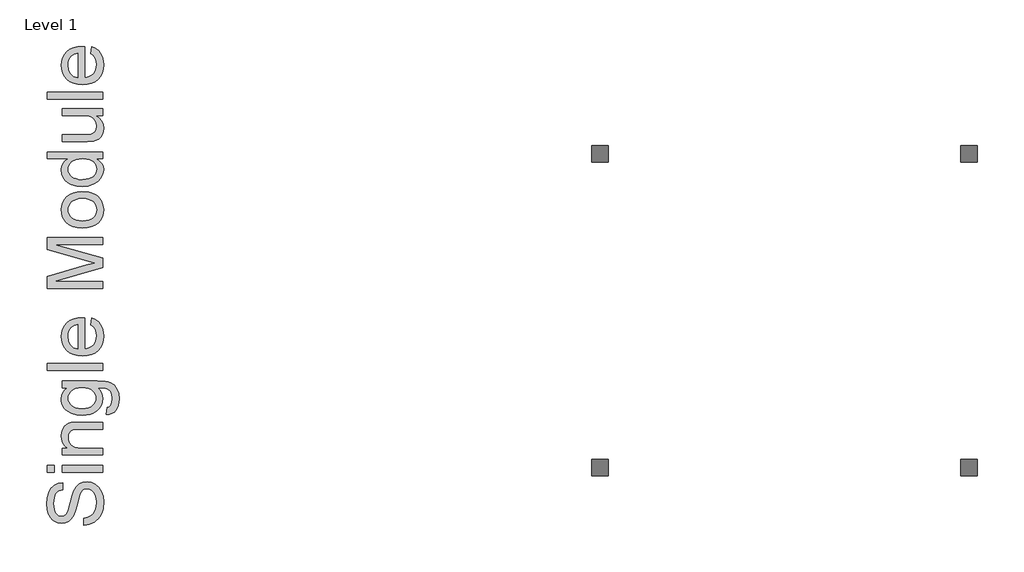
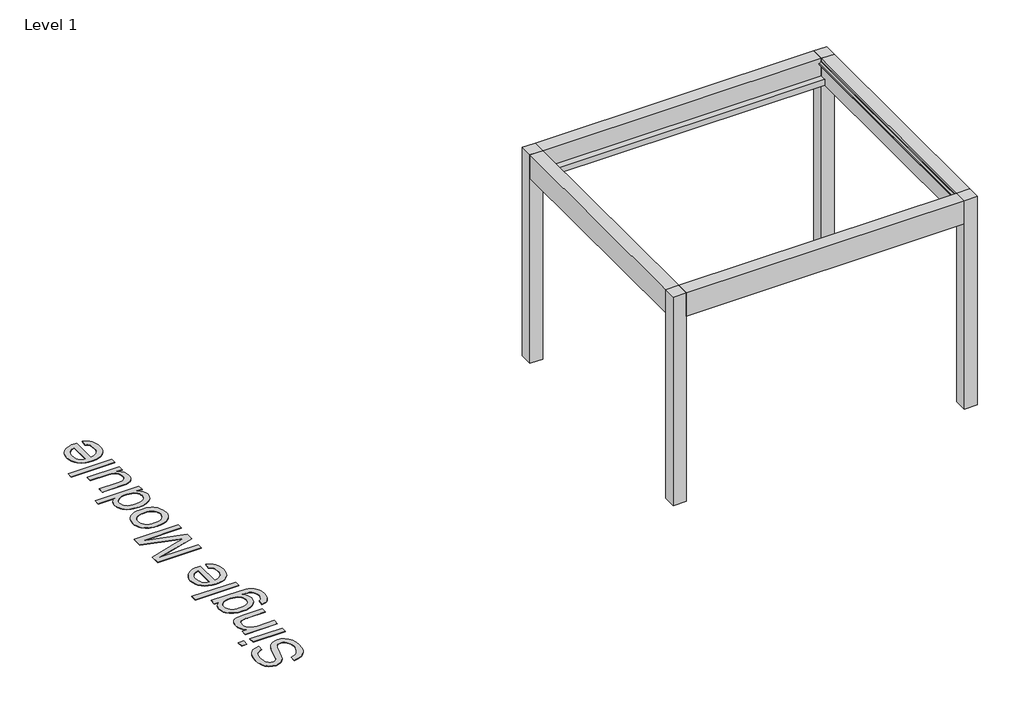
# One storey, part 52 of 80: 2 proxies.
"""IFC4 building model written with IfcOpenShell, lengths in millimetres."""

from ifc_helpers import new_model, si_unit, origin, origin_with_axes, place, context, project, spatial, polyline, outline, extrude, transform, mapped, element, save
from components import generic_models_9605c008

model = new_model("IFC4")

# Units and contexts
model_context = context("Model", 3, world=origin())
ifc_project = project(units=[si_unit("LENGTHUNIT", "METRE", prefix="MILLI")], contexts=[model_context])

# Site, building, storey
site = spatial("IfcSite", under=ifc_project)
building = spatial("IfcBuilding", under=site)
storey = spatial("IfcBuildingStorey", under=building, Name="Level 1", Elevation=0.0)

# Proxies
placement = place(None, origin())
generic_models_shape = generic_models_9605c008(model_context)
element("IfcBuildingElementProxy", 1, Name="Renson_Amani_Patio_Cover : Renson_Amani_Patio_Cover", ObjectType="Renson_Amani_Patio_Cover : Renson_Amani_Patio_Cover", at=placement, inside=storey, context=model_context, shape_type="MappedRepresentation", body=[
    mapped(generic_models_shape, transform((48903.165057, 67528.5861401, 0.0), x_axis=(1.0, 0.0, 0.0), y_axis=(0.0, 1.0, 0.0), z_axis=(0.0, 0.0, 1.0))),
])
element("IfcBuildingElementProxy", 2, Name="500mm Arial", ObjectType="500mm Arial", at=placement, inside=storey, context=model_context, shape_type="SweptSolid", body=[
    extrude(outline(polyline([(42540.3333758, 65583.2954326), (42540.3333758, 65646.0806264), (42575.1748664, 65653.2849821), (42603.1798833, 65666.3141361), (42625.4060871, 65686.6396164), (42642.9111388, 65715.7329508), (42654.2694954, 65751.294877), (42658.0556142, 65791.0261325), (42655.1892003, 65826.0055789), (42646.5899587, 65856.631755), (42632.9783249, 65881.4484612), (42615.0747345, 65898.9994981), (42594.519328, 65909.4381497), (42572.952246, 65912.9177002), (42551.936987, 65910.3118694), (42533.7728135, 65902.494377), (42518.2757845, 65886.6141376), (42505.2619589, 65859.8200656), (42481.2883155, 65768.4013898), (42465.4234045, 65708.3906393), (42450.3249143, 65669.9929561), (42429.2023564, 65638.7383149), (42403.6039009, 65616.5887531), (42374.0813708, 65603.3909866), (42341.186589, 65598.991731), (42304.4137179, 65604.4333189), (42270.1240503, 65620.7580824), (42254.5963644, 65632.8943561), (42241.0613727, 65647.536826), (42219.9694716, 65684.3403539), (42207.139587, 65728.5168502), (42202.8629589, 65777.4144987), (42207.3388565, 65830.389506), (42220.7665493, 65876.7426374), (42242.8701258, 65914.8184239), (42257.0719037, 65930.1315119), (42273.3736746, 65942.9613965), (42310.3764719, 65960.7730165), (42351.9777942, 65967.8547449), (42351.9777942, 65905.069551), (42331.9435539, 65900.8695649), (42314.5151444, 65893.5425818), (42299.6925657, 65883.0886018), (42287.4758177, 65869.5076248), (42277.9262143, 65852.546732), (42271.105069, 65831.9530045), (42265.6481527, 65779.8670453), (42271.0437553, 65726.5548129), (42277.7882585, 65706.1756832), (42287.2305631, 65689.9812112), (42298.5812555, 65677.6418359), (42311.0509223, 65668.8279964), (42324.6395635, 65663.5396928), (42339.3471791, 65661.7769249), (42363.4741066, 65666.7739886), (42382.8798818, 65681.7651799), (42391.5097803, 65695.5300979), (42400.2316493, 65717.2044788), (42417.9512987, 65784.2816293), (42434.7819, 65853.504758), (42449.466523, 65895.3819918), (42472.2445498, 65931.1738443), (42500.3568656, 65956.1438347), (42533.496902, 65970.8131292), (42571.3580907, 65975.7028941), (42610.0623423, 65970.0773652), (42646.4673314, 65953.2007787), (42677.7986146, 65925.7629132), (42701.2817487, 65888.4535476), (42715.9510432, 65843.5872726), (42720.8408081, 65793.4786791), (42715.5678328, 65731.9657439), (42708.9766137, 65705.2904671), (42699.748907, 65681.3359843), (42687.8693842, 65659.9566754), (42673.322717, 65641.0069206), (42656.1089053, 65624.4867197), (42636.2279492, 65610.3960729), (42614.323642, 65599.0453805), (42591.0397774, 65590.745043), (42566.3763553, 65585.4950603), (42540.3333758, 65583.2954326)])), origin_with_axes(), (0.0, 0.0, 1.0), 5.0),
    extrude(outline(polyline([(42712.9926588, 66062.0325356), (42344.129645, 66062.0325356), (42344.129645, 66124.8177295), (42712.9926588, 66124.8177295), (42712.9926588, 66062.0325356)])), origin_with_axes(), (0.0, 0.0, 1.0), 5.0),
    extrude(outline(polyline([(42273.4963019, 66062.0325356), (42210.7111081, 66062.0325356), (42210.7111081, 66124.8177295), (42273.4963019, 66124.8177295), (42273.4963019, 66062.0325356)])), origin_with_axes(), (0.0, 0.0, 1.0), 5.0),
    extrude(outline(polyline([(42712.9926588, 66218.9955202), (42344.129645, 66218.9955202), (42344.129645, 66281.7807141), (42395.6331243, 66281.7807141), (42369.6667868, 66303.5930507), (42351.1194029, 66329.7893144), (42339.9909726, 66360.3695053), (42336.2814958, 66395.3336233), (42339.270537, 66426.2816961), (42348.2376606, 66454.6239381), (42362.0638923, 66478.2603563), (42379.6302575, 66495.0909576), (42400.8907712, 66506.5106279), (42425.7994479, 66513.914253), (42486.4999771, 66517.225191), (42712.9926588, 66517.225191), (42712.9926588, 66454.4399971), (42494.961263, 66454.4399971), (42462.495677, 66452.631244), (42439.4110818, 66447.2049846), (42422.8717204, 66437.1955286), (42410.0418358, 66421.6371859), (42401.8104762, 66401.6949161), (42399.0666896, 66378.5336788), (42400.6071955, 66359.4689608), (42405.228713, 66341.7608077), (42412.9312423, 66325.4092194), (42423.7147833, 66310.414196), (42438.8056093, 66297.8870477), (42459.4299937, 66288.9390846), (42485.5879364, 66283.5703067), (42517.2794374, 66281.7807141), (42712.9926588, 66281.7807141), (42712.9926588, 66218.9955202)])), origin_with_axes(), (0.0, 0.0, 1.0), 5.0),
    extrude(outline(polyline([(42744.3852558, 66587.8585341), (42752.233405, 66650.6437279), (42771.8537781, 66657.5721721), (42785.3427846, 66670.999865), (42795.8274214, 66697.3953981), (42799.3223004, 66731.9456488), (42795.3675689, 66768.795162), (42783.5033746, 66796.2023707), (42764.4961382, 66815.2096071), (42739.1122805, 66826.8592036), (42712.1036107, 66830.2621121), (42665.9037635, 66831.1511602), (42686.5051552, 66810.2585286), (42701.220435, 66786.9440071), (42710.0496029, 66761.2075959), (42712.9926588, 66733.0492948), (42709.5667578, 66698.6255035), (42699.2890545, 66668.3173921), (42682.1595491, 66642.1249605), (42658.1782416, 66620.0482086), (42629.4068038, 66602.5316607), (42597.906908, 66590.0198408), (42563.678554, 66582.5127488), (42526.7217419, 66580.0103848), (42476.0306687, 66584.5016109), (42429.4169542, 66597.9752889), (42389.915625, 66619.9562381), (42373.9702398, 66633.9587466), (42360.5617075, 66649.9692776), (42349.9391148, 66667.7310802), (42342.3515487, 66686.9874033), (42337.799009, 66707.7382471), (42336.2814958, 66729.9836115), (42339.7150611, 66759.3451933), (42350.0157569, 66785.9936453), (42367.1835834, 66809.9289676), (42391.2185404, 66831.1511602), (42344.129645, 66831.1511602), (42344.129645, 66893.936354), (42662.5928255, 66893.936354), (42736.1232393, 66889.6443974), (42763.4729664, 66884.2794517), (42784.5457069, 66876.7685276), (42816.6587394, 66854.588309), (42841.2608478, 66822.383306), (42850.3812556, 66802.6977871), (42856.8958326, 66780.8586258), (42862.1074942, 66730.7193755), (42860.2719163, 66699.9590758), (42854.7651827, 66672.3027804), (42845.5872934, 66647.7504893), (42832.7382483, 66626.3022026), (42816.202719, 66608.9772598), (42795.9653772, 66596.7950009), (42772.0262227, 66589.7554256), (42744.3852558, 66587.8585341)]), holes=[polyline([(42522.4297853, 66642.7955787), (42553.4736608, 66644.4702082), (42580.018646, 66649.4940967), (42602.064741, 66657.8672442), (42619.6119457, 66669.5896507), (42632.9974854, 66683.8412459), (42642.5585852, 66699.8019595), (42648.295245, 66717.4717916), (42650.207465, 66736.8507421), (42648.3067413, 66756.0380874), (42642.6045704, 66773.6236132), (42633.1009522, 66789.6073195), (42619.7958867, 66803.9892062), (42602.4211267, 66815.8725611), (42580.7084247, 66824.3606717), (42554.657781, 66829.4535381), (42524.2691953, 66831.1511602), (42495.1490361, 66829.4037207), (42469.8379884, 66824.1614023), (42448.3360522, 66815.4242049), (42430.6432275, 66803.1921286), (42416.8284922, 66788.4998414), (42406.9608241, 66772.3820115), (42401.0402232, 66754.8386388), (42399.0666896, 66735.8697235), (42401.0095664, 66717.2188727), (42406.8381968, 66700.0165573), (42416.5525807, 66684.2627773), (42430.1527182, 66669.9575327), (42447.5772956, 66658.0741778), (42468.7649993, 66649.5860672), (42493.7158292, 66644.4932008), (42522.4297853, 66642.7955787)])]), origin_with_axes(), (0.0, 0.0, 1.0), 5.0),
    extrude(outline(polyline([(42712.9926588, 66988.1141448), (42210.7111081, 66988.1141448), (42210.7111081, 67050.8993387), (42712.9926588, 67050.8993387), (42712.9926588, 66988.1141448)])), origin_with_axes(), (0.0, 0.0, 1.0), 5.0),
    extrude(outline(polyline([(42603.1185696, 67403.33029), (42610.9667188, 67464.8892106), (42635.6224767, 67455.4507381), (42657.3505071, 67442.7089919), (42676.1508099, 67426.663972), (42692.0233851, 67407.3156783), (42704.6310077, 67384.8633803), (42713.6364523, 67359.5063474), (42719.0397191, 67331.2445795), (42720.8408081, 67300.0780767), (42717.7329716, 67261.1209063), (42708.4094623, 67226.4097072), (42692.8702801, 67195.9444795), (42671.115425, 67169.7252231), (42643.7503696, 67148.6409863), (42611.3805861, 67133.5808171), (42574.0060746, 67124.5447156), (42531.6268352, 67121.5326817), (42487.8105567, 67124.5753724), (42449.1906115, 67133.7034444), (42415.7669994, 67148.9168977), (42387.5397204, 67170.2157324), (42365.1142471, 67196.3660109), (42349.0960519, 67226.1337957), (42339.4851348, 67259.5190868), (42336.2814958, 67296.5218841), (42339.4774706, 67332.3328971), (42349.0653951, 67364.718009), (42365.0452693, 67393.6772198), (42387.4170931, 67419.2105295), (42415.5830584, 67440.0533438), (42448.9453568, 67454.9410683), (42487.5039884, 67463.873703), (42531.2589532, 67466.8512479), (42548.181525, 67466.4833659), (42548.181525, 67184.3178756), (42573.2358217, 67187.9545424), (42595.1784499, 67195.1857229), (42614.0094095, 67206.011417), (42629.7287006, 67220.4316248), (42642.1217253, 67237.6492686), (42650.9738858, 67256.8672707), (42656.2851821, 67278.0856312), (42658.0556142, 67301.30435), (42654.7753331, 67334.7202979), (42644.9344897, 67362.8632706), (42627.9199474, 67385.7332679), (42603.1185696, 67403.33029)]), holes=[polyline([(42485.3963312, 67184.3178756), (42485.3963312, 67404.066054), (42452.2256379, 67395.5741113), (42428.4972492, 67378.927451), (42415.6213794, 67361.8056098), (42406.4243295, 67342.3231925), (42400.9060996, 67320.480199), (42399.0666896, 67296.2766294), (42404.9374731, 67253.9548716), (42412.2759525, 67235.5416113), (42422.5498236, 67218.9600968), (42435.2839056, 67205.0457267), (42450.0030175, 67194.6338999), (42466.7071594, 67187.7246161), (42485.3963312, 67184.3178756)])]), origin_with_axes(), (0.0, 0.0, 1.0), 5.0),
    extrude(outline(polyline([(42712.9926588, 67733.6883217), (42210.7111081, 67733.6883217), (42210.7111081, 67841.723001), (42564.7362148, 67944.4847049), (42638.6804958, 67965.208724), (42558.6048482, 67987.6495257), (42210.7111081, 68088.6944471), (42210.7111081, 68196.7291263), (42712.9926588, 68196.7291263), (42712.9926588, 68133.9439325), (42273.4963019, 68133.9439325), (42712.9926588, 68007.7604081), (42712.9926588, 67922.6570399), (42273.4963019, 67796.4735156), (42712.9926588, 67796.4735156), (42712.9926588, 67733.6883217)])), origin_with_axes(), (0.0, 0.0, 1.0), 5.0),
    extrude(outline(polyline([(42528.5611519, 68283.0587678), (42480.790142, 68286.4540121), (42439.6256796, 68296.6397448), (42405.0677647, 68313.6159661), (42377.1163972, 68337.3826758), (42359.2511278, 68361.3103339), (42346.4902211, 68387.7211955), (42338.8336771, 68416.6152605), (42336.2814958, 68447.992529), (42339.3893322, 68482.6309181), (42348.7128415, 68513.9507051), (42364.2520237, 68541.9518898), (42386.0068788, 68566.6344725), (42413.2416427, 68586.7798438), (42445.2205516, 68601.1693948), (42481.9436053, 68609.8031253), (42523.410804, 68612.6810355), (42586.8397913, 68607.5920012), (42612.8751067, 68601.2307084), (42635.1243032, 68592.3248984), (42654.3423053, 68580.9857024), (42671.2840376, 68567.3242512), (42685.9495001, 68551.3405449), (42698.3386927, 68533.0345836), (42715.2152792, 68492.306981), (42720.8408081, 68447.992529), (42717.7444679, 68412.8483022), (42708.4554476, 68381.2372753), (42692.9737469, 68353.1594484), (42671.299366, 68328.6148216), (42643.8001869, 68308.6840481), (42610.8440915, 68294.4477813), (42572.4310798, 68285.9060212), (42528.5611519, 68283.0587678)]), holes=[polyline([(42528.4385246, 68345.8439617), (42558.892256, 68347.660379), (42585.2609644, 68353.1096311), (42607.5446499, 68362.1917178), (42625.7433123, 68374.9066393), (42639.8799444, 68390.3730115), (42649.9775387, 68407.7094505), (42656.0360954, 68426.9159564), (42658.0556142, 68447.992529), (42656.024599, 68468.9618027), (42649.9315535, 68488.0916665), (42639.7764776, 68505.3821203), (42625.5593713, 68520.8331641), (42607.1806, 68533.5480855), (42584.5405289, 68542.6301723), (42557.639158, 68548.0794243), (42526.4764873, 68549.8958417), (42496.9884461, 68548.067928), (42471.3095164, 68542.584187), (42449.4396982, 68533.4446187), (42431.3789915, 68520.6492231), (42417.2423594, 68505.1406977), (42407.1447651, 68487.8617402), (42401.0862085, 68468.8123507), (42399.0666896, 68447.992529), (42401.0785443, 68426.9159564), (42407.1141083, 68407.7094505), (42417.1733816, 68390.3730115), (42431.2563642, 68374.9066393), (42449.4013772, 68362.1917178), (42471.6467416, 68353.1096311), (42497.9924574, 68347.660379), (42528.4385246, 68345.8439617)])]), origin_with_axes(), (0.0, 0.0, 1.0), 5.0),
    extrude(outline(polyline([(42712.9926588, 68910.9107063), (42653.7636576, 68910.9107063), (42683.1099109, 68892.1257319), (42704.0715205, 68869.3706977), (42716.6484862, 68842.6456035), (42720.8408081, 68811.9504496), (42714.7707551, 68771.3608028), (42696.5605964, 68734.2047213), (42667.4825903, 68702.7508107), (42628.8089956, 68679.2676766), (42582.1033106, 68664.6443673), (42528.9290339, 68659.7699309), (42476.4138791, 68664.2611569), (42428.9877586, 68677.734835), (42407.8575365, 68687.8362614), (42389.3484736, 68700.1756367), (42373.4605699, 68714.7529608), (42360.1938255, 68731.5682336), (42342.2595782, 68769.5367212), (42336.2814958, 68811.7051949), (42340.558124, 68842.4233415), (42353.3880085, 68869.5852955), (42373.0543669, 68892.608577), (42397.8404163, 68910.9107063), (42210.7111081, 68910.9107063), (42210.7111081, 68973.6959001), (42712.9926588, 68973.6959001), (42712.9926588, 68910.9107063)]), holes=[polyline([(42528.6837793, 68722.5551247), (42559.1298465, 68724.3255568), (42585.4755623, 68729.6368531), (42607.7209267, 68738.4890137), (42625.8659396, 68750.8820384), (42639.9489223, 68765.6816245), (42650.0081956, 68781.7534691), (42656.0437596, 68799.0975724), (42658.0556142, 68817.7139342), (42656.1357301, 68836.4184344), (42650.3760776, 68853.6590708), (42640.7766568, 68869.4358434), (42627.3374676, 68883.7487523), (42609.9512112, 68895.6321072), (42588.5105887, 68904.1202178), (42563.0156, 68909.2130841), (42533.4662452, 68910.9107063), (42501.069637, 68909.1824273), (42473.2868821, 68903.9975904), (42450.1179807, 68895.3561957), (42431.5629325, 68883.258243), (42417.3458263, 68868.6311016), (42407.1907503, 68852.4021406), (42401.0977048, 68834.5713602), (42399.0666896, 68815.1387602), (42401.0172306, 68796.1545164), (42406.8688536, 68778.8104132), (42416.6215586, 68763.1064505), (42430.2753455, 68749.0426284), (42448.1291186, 68737.4543455), (42470.4817819, 68729.1770007), (42497.3333355, 68724.2105937), (42528.6837793, 68722.5551247)])]), origin_with_axes(), (0.0, 0.0, 1.0), 5.0),
    extrude(outline(polyline([(42712.9926588, 69303.3181678), (42649.5943283, 69303.3181678), (42680.7646632, 69280.6014546), (42703.0291881, 69254.1446078), (42716.3879031, 69223.9476273), (42720.8408081, 69190.0105133), (42717.7138111, 69159.4303224), (42708.3328202, 69130.9654531), (42694.2306771, 69107.0837802), (42676.9402233, 69090.2531789), (42655.9402927, 69078.9254792), (42630.7097192, 69071.5525108), (42572.3391093, 69067.8736909), (42344.129645, 69067.8736909), (42344.129645, 69130.6588847), (42542.7859224, 69130.6588847), (42606.7973896, 69134.460332), (42628.1498737, 69143.6113966), (42644.3826667, 69159.2923667), (42654.6373773, 69180.4609098), (42658.0556142, 69206.0746937), (42654.5607353, 69233.1600056), (42644.0760984, 69258.497878), (42627.5673939, 69279.3905097), (42606.0003119, 69293.1400993), (42576.4624534, 69300.7736507), (42536.0414192, 69303.3181678), (42344.129645, 69303.3181678), (42344.129645, 69366.1033616), (42712.9926588, 69366.1033616), (42712.9926588, 69303.3181678)])), origin_with_axes(), (0.0, 0.0, 1.0), 5.0),
    extrude(outline(polyline([(42712.9926588, 69452.4330032), (42210.7111081, 69452.4330032), (42210.7111081, 69515.218197), (42712.9926588, 69515.218197), (42712.9926588, 69452.4330032)])), origin_with_axes(), (0.0, 0.0, 1.0), 5.0),
    extrude(outline(polyline([(42603.1185696, 69867.6491484), (42610.9667188, 69929.2080689), (42635.6224767, 69919.7695965), (42657.3505071, 69907.0278503), (42676.1508099, 69890.9828304), (42692.0233851, 69871.6345367), (42704.6310077, 69849.1822387), (42713.6364523, 69823.8252057), (42719.0397191, 69795.5634379), (42720.8408081, 69764.3969351), (42717.7329716, 69725.4397646), (42708.4094623, 69690.7285655), (42692.8702801, 69660.2633378), (42671.115425, 69634.0440815), (42643.7503696, 69612.9598446), (42611.3805861, 69597.8996754), (42574.0060746, 69588.8635739), (42531.6268352, 69585.8515401), (42487.8105567, 69588.8942308), (42449.1906115, 69598.0223028), (42415.7669994, 69613.2357561), (42387.5397204, 69634.5345908), (42365.1142471, 69660.6848693), (42349.0960519, 69690.4526541), (42339.4851348, 69723.8379451), (42336.2814958, 69760.8407425), (42339.4774706, 69796.6517554), (42349.0653951, 69829.0368673), (42365.0452693, 69857.9960781), (42387.4170931, 69883.5293879), (42415.5830584, 69904.3722021), (42448.9453568, 69919.2599266), (42487.5039884, 69928.1925613), (42531.2589532, 69931.1701062), (42548.181525, 69930.8022242), (42548.181525, 69648.6367339), (42573.2358217, 69652.2734007), (42595.1784499, 69659.5045812), (42614.0094095, 69670.3302753), (42629.7287006, 69684.7504831), (42642.1217253, 69701.9681269), (42650.9738858, 69721.1861291), (42656.2851821, 69742.4044896), (42658.0556142, 69765.6232084), (42654.7753331, 69799.0391563), (42644.9344897, 69827.1821289), (42627.9199474, 69850.0521263), (42603.1185696, 69867.6491484)]), holes=[polyline([(42485.3963312, 69648.6367339), (42485.3963312, 69868.3849124), (42452.2256379, 69859.8929697), (42428.4972492, 69843.2463094), (42415.6213794, 69826.1244682), (42406.4243295, 69806.6420509), (42400.9060996, 69784.7990574), (42399.0666896, 69760.5954878), (42404.9374731, 69718.2737299), (42412.2759525, 69699.8604697), (42422.5498236, 69683.2789551), (42435.2839056, 69669.3645851), (42450.0030175, 69658.9527582), (42466.7071594, 69652.0434745), (42485.3963312, 69648.6367339)])]), origin_with_axes(), (0.0, 0.0, 1.0), 5.0),
])

save(model, "model.ifc")
